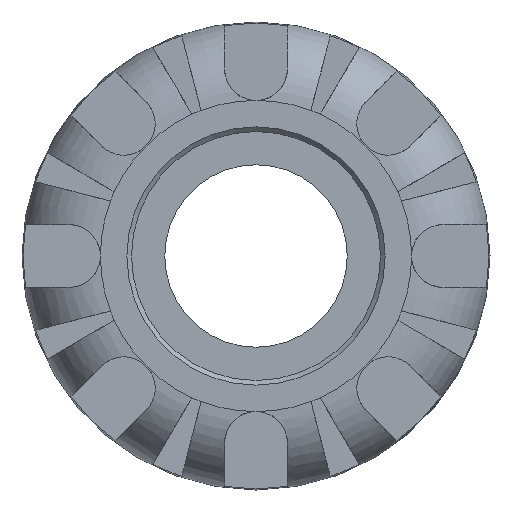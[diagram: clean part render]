
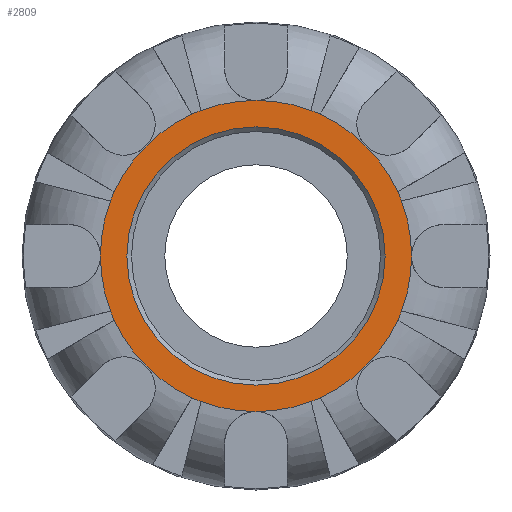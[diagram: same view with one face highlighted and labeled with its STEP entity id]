
A CAD part, left-side view. The second image highlights one B-rep face of the part: STEP entity #2809.
In plain terms, the highlighted planar face has unit normal (-1, 0, 0).
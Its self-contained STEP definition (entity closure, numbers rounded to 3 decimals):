
#25=FACE_BOUND('',#490,.T.);
#114=CIRCLE('',#3048,12.97);
#115=CIRCLE('',#3050,15.625);
#116=CIRCLE('',#3051,15.625);
#117=CIRCLE('',#3052,15.625);
#118=CIRCLE('',#3053,15.625);
#119=CIRCLE('',#3054,15.625);
#120=CIRCLE('',#3055,15.625);
#121=CIRCLE('',#3056,15.625);
#122=CIRCLE('',#3057,15.625);
#123=CIRCLE('',#3058,15.625);
#124=CIRCLE('',#3059,15.625);
#125=CIRCLE('',#3060,15.625);
#126=CIRCLE('',#3061,15.625);
#127=CIRCLE('',#3062,15.625);
#128=CIRCLE('',#3063,15.625);
#129=CIRCLE('',#3064,15.625);
#130=CIRCLE('',#3065,15.625);
#131=CIRCLE('',#3066,15.625);
#132=CIRCLE('',#3067,15.625);
#133=CIRCLE('',#3068,15.625);
#134=CIRCLE('',#3069,15.625);
#135=CIRCLE('',#3070,15.625);
#136=CIRCLE('',#3071,15.625);
#137=CIRCLE('',#3072,15.625);
#138=CIRCLE('',#3073,15.625);
#320=FACE_OUTER_BOUND('',#489,.T.);
#489=EDGE_LOOP('',(#2048,#2049,#2050,#2051,#2052,#2053,#2054,#2055,#2056,
#2057,#2058,#2059,#2060,#2061,#2062,#2063,#2064,#2065,#2066,#2067,#2068,
#2069,#2070,#2071));
#490=EDGE_LOOP('',(#2072));
#1115=VERTEX_POINT('',#5249);
#1116=VERTEX_POINT('',#5252);
#1117=VERTEX_POINT('',#5253);
#1118=VERTEX_POINT('',#5255);
#1119=VERTEX_POINT('',#5257);
#1120=VERTEX_POINT('',#5259);
#1121=VERTEX_POINT('',#5261);
#1122=VERTEX_POINT('',#5263);
#1123=VERTEX_POINT('',#5265);
#1124=VERTEX_POINT('',#5267);
#1125=VERTEX_POINT('',#5269);
#1126=VERTEX_POINT('',#5271);
#1127=VERTEX_POINT('',#5273);
#1128=VERTEX_POINT('',#5275);
#1129=VERTEX_POINT('',#5277);
#1130=VERTEX_POINT('',#5279);
#1131=VERTEX_POINT('',#5281);
#1132=VERTEX_POINT('',#5283);
#1133=VERTEX_POINT('',#5285);
#1134=VERTEX_POINT('',#5287);
#1135=VERTEX_POINT('',#5289);
#1136=VERTEX_POINT('',#5291);
#1137=VERTEX_POINT('',#5293);
#1138=VERTEX_POINT('',#5295);
#1139=VERTEX_POINT('',#5297);
#1449=EDGE_CURVE('',#1115,#1115,#114,.T.);
#1450=EDGE_CURVE('',#1116,#1117,#115,.T.);
#1451=EDGE_CURVE('',#1118,#1116,#116,.T.);
#1452=EDGE_CURVE('',#1119,#1118,#117,.T.);
#1453=EDGE_CURVE('',#1120,#1119,#118,.T.);
#1454=EDGE_CURVE('',#1121,#1120,#119,.T.);
#1455=EDGE_CURVE('',#1122,#1121,#120,.T.);
#1456=EDGE_CURVE('',#1123,#1122,#121,.T.);
#1457=EDGE_CURVE('',#1124,#1123,#122,.T.);
#1458=EDGE_CURVE('',#1125,#1124,#123,.T.);
#1459=EDGE_CURVE('',#1126,#1125,#124,.T.);
#1460=EDGE_CURVE('',#1127,#1126,#125,.T.);
#1461=EDGE_CURVE('',#1128,#1127,#126,.T.);
#1462=EDGE_CURVE('',#1129,#1128,#127,.T.);
#1463=EDGE_CURVE('',#1130,#1129,#128,.T.);
#1464=EDGE_CURVE('',#1131,#1130,#129,.T.);
#1465=EDGE_CURVE('',#1132,#1131,#130,.T.);
#1466=EDGE_CURVE('',#1133,#1132,#131,.T.);
#1467=EDGE_CURVE('',#1134,#1133,#132,.T.);
#1468=EDGE_CURVE('',#1135,#1134,#133,.T.);
#1469=EDGE_CURVE('',#1136,#1135,#134,.T.);
#1470=EDGE_CURVE('',#1137,#1136,#135,.T.);
#1471=EDGE_CURVE('',#1138,#1137,#136,.T.);
#1472=EDGE_CURVE('',#1139,#1138,#137,.T.);
#1473=EDGE_CURVE('',#1117,#1139,#138,.T.);
#2048=ORIENTED_EDGE('',*,*,#1450,.F.);
#2049=ORIENTED_EDGE('',*,*,#1451,.F.);
#2050=ORIENTED_EDGE('',*,*,#1452,.F.);
#2051=ORIENTED_EDGE('',*,*,#1453,.F.);
#2052=ORIENTED_EDGE('',*,*,#1454,.F.);
#2053=ORIENTED_EDGE('',*,*,#1455,.F.);
#2054=ORIENTED_EDGE('',*,*,#1456,.F.);
#2055=ORIENTED_EDGE('',*,*,#1457,.F.);
#2056=ORIENTED_EDGE('',*,*,#1458,.F.);
#2057=ORIENTED_EDGE('',*,*,#1459,.F.);
#2058=ORIENTED_EDGE('',*,*,#1460,.F.);
#2059=ORIENTED_EDGE('',*,*,#1461,.F.);
#2060=ORIENTED_EDGE('',*,*,#1462,.F.);
#2061=ORIENTED_EDGE('',*,*,#1463,.F.);
#2062=ORIENTED_EDGE('',*,*,#1464,.F.);
#2063=ORIENTED_EDGE('',*,*,#1465,.F.);
#2064=ORIENTED_EDGE('',*,*,#1466,.F.);
#2065=ORIENTED_EDGE('',*,*,#1467,.F.);
#2066=ORIENTED_EDGE('',*,*,#1468,.F.);
#2067=ORIENTED_EDGE('',*,*,#1469,.F.);
#2068=ORIENTED_EDGE('',*,*,#1470,.F.);
#2069=ORIENTED_EDGE('',*,*,#1471,.F.);
#2070=ORIENTED_EDGE('',*,*,#1472,.F.);
#2071=ORIENTED_EDGE('',*,*,#1473,.F.);
#2072=ORIENTED_EDGE('',*,*,#1449,.F.);
#2507=PLANE('',#3049);
#2809=ADVANCED_FACE('',(#320,#25),#2507,.T.);
#3048=AXIS2_PLACEMENT_3D('',#5250,#3591,#3592);
#3049=AXIS2_PLACEMENT_3D('',#5251,#3593,#3594);
#3050=AXIS2_PLACEMENT_3D('',#5254,#3595,#3596);
#3051=AXIS2_PLACEMENT_3D('',#5256,#3597,#3598);
#3052=AXIS2_PLACEMENT_3D('',#5258,#3599,#3600);
#3053=AXIS2_PLACEMENT_3D('',#5260,#3601,#3602);
#3054=AXIS2_PLACEMENT_3D('',#5262,#3603,#3604);
#3055=AXIS2_PLACEMENT_3D('',#5264,#3605,#3606);
#3056=AXIS2_PLACEMENT_3D('',#5266,#3607,#3608);
#3057=AXIS2_PLACEMENT_3D('',#5268,#3609,#3610);
#3058=AXIS2_PLACEMENT_3D('',#5270,#3611,#3612);
#3059=AXIS2_PLACEMENT_3D('',#5272,#3613,#3614);
#3060=AXIS2_PLACEMENT_3D('',#5274,#3615,#3616);
#3061=AXIS2_PLACEMENT_3D('',#5276,#3617,#3618);
#3062=AXIS2_PLACEMENT_3D('',#5278,#3619,#3620);
#3063=AXIS2_PLACEMENT_3D('',#5280,#3621,#3622);
#3064=AXIS2_PLACEMENT_3D('',#5282,#3623,#3624);
#3065=AXIS2_PLACEMENT_3D('',#5284,#3625,#3626);
#3066=AXIS2_PLACEMENT_3D('',#5286,#3627,#3628);
#3067=AXIS2_PLACEMENT_3D('',#5288,#3629,#3630);
#3068=AXIS2_PLACEMENT_3D('',#5290,#3631,#3632);
#3069=AXIS2_PLACEMENT_3D('',#5292,#3633,#3634);
#3070=AXIS2_PLACEMENT_3D('',#5294,#3635,#3636);
#3071=AXIS2_PLACEMENT_3D('',#5296,#3637,#3638);
#3072=AXIS2_PLACEMENT_3D('',#5298,#3639,#3640);
#3073=AXIS2_PLACEMENT_3D('',#5299,#3641,#3642);
#3591=DIRECTION('center_axis',(-1.,0.,0.));
#3592=DIRECTION('ref_axis',(0.,-1.,0.));
#3593=DIRECTION('center_axis',(-1.,0.,0.));
#3594=DIRECTION('ref_axis',(0.,0.,1.));
#3595=DIRECTION('center_axis',(1.,0.,0.));
#3596=DIRECTION('ref_axis',(0.,0.,-1.));
#3597=DIRECTION('center_axis',(1.,0.,0.));
#3598=DIRECTION('ref_axis',(0.,0.,-1.));
#3599=DIRECTION('center_axis',(1.,0.,0.));
#3600=DIRECTION('ref_axis',(0.,0.,-1.));
#3601=DIRECTION('center_axis',(1.,0.,0.));
#3602=DIRECTION('ref_axis',(0.,0.,-1.));
#3603=DIRECTION('center_axis',(1.,0.,0.));
#3604=DIRECTION('ref_axis',(0.,0.,-1.));
#3605=DIRECTION('center_axis',(1.,0.,0.));
#3606=DIRECTION('ref_axis',(0.,0.,-1.));
#3607=DIRECTION('center_axis',(1.,0.,0.));
#3608=DIRECTION('ref_axis',(0.,0.,-1.));
#3609=DIRECTION('center_axis',(1.,0.,0.));
#3610=DIRECTION('ref_axis',(0.,0.,-1.));
#3611=DIRECTION('center_axis',(1.,0.,0.));
#3612=DIRECTION('ref_axis',(0.,0.,-1.));
#3613=DIRECTION('center_axis',(1.,0.,0.));
#3614=DIRECTION('ref_axis',(0.,0.,-1.));
#3615=DIRECTION('center_axis',(1.,0.,0.));
#3616=DIRECTION('ref_axis',(0.,0.,-1.));
#3617=DIRECTION('center_axis',(1.,0.,0.));
#3618=DIRECTION('ref_axis',(0.,0.,-1.));
#3619=DIRECTION('center_axis',(1.,0.,0.));
#3620=DIRECTION('ref_axis',(0.,0.,-1.));
#3621=DIRECTION('center_axis',(1.,0.,0.));
#3622=DIRECTION('ref_axis',(0.,0.,-1.));
#3623=DIRECTION('center_axis',(1.,0.,0.));
#3624=DIRECTION('ref_axis',(0.,0.,-1.));
#3625=DIRECTION('center_axis',(1.,0.,0.));
#3626=DIRECTION('ref_axis',(0.,0.,-1.));
#3627=DIRECTION('center_axis',(1.,0.,0.));
#3628=DIRECTION('ref_axis',(0.,0.,-1.));
#3629=DIRECTION('center_axis',(1.,0.,0.));
#3630=DIRECTION('ref_axis',(0.,0.,-1.));
#3631=DIRECTION('center_axis',(1.,0.,0.));
#3632=DIRECTION('ref_axis',(0.,0.,-1.));
#3633=DIRECTION('center_axis',(1.,0.,0.));
#3634=DIRECTION('ref_axis',(0.,0.,-1.));
#3635=DIRECTION('center_axis',(1.,0.,0.));
#3636=DIRECTION('ref_axis',(0.,0.,-1.));
#3637=DIRECTION('center_axis',(1.,0.,0.));
#3638=DIRECTION('ref_axis',(0.,0.,-1.));
#3639=DIRECTION('center_axis',(1.,0.,0.));
#3640=DIRECTION('ref_axis',(0.,0.,-1.));
#3641=DIRECTION('center_axis',(1.,0.,0.));
#3642=DIRECTION('ref_axis',(0.,0.,-1.));
#5249=CARTESIAN_POINT('',(-49.,12.97,0.));
#5250=CARTESIAN_POINT('Origin',(-49.,0.,0.));
#5251=CARTESIAN_POINT('Origin',(-49.,15.625,0.));
#5252=CARTESIAN_POINT('',(-49.,15.625,0.));
#5253=CARTESIAN_POINT('',(-49.,14.62,5.514));
#5254=CARTESIAN_POINT('Origin',(-49.,0.,0.));
#5255=CARTESIAN_POINT('',(-49.,14.62,-5.514));
#5256=CARTESIAN_POINT('Origin',(-49.,0.,0.));
#5257=CARTESIAN_POINT('',(-49.,14.237,-6.438));
#5258=CARTESIAN_POINT('Origin',(-49.,0.,0.));
#5259=CARTESIAN_POINT('',(-49.,11.049,-11.049));
#5260=CARTESIAN_POINT('Origin',(-49.,0.,0.));
#5261=CARTESIAN_POINT('',(-49.,6.438,-14.237));
#5262=CARTESIAN_POINT('Origin',(-49.,0.,0.));
#5263=CARTESIAN_POINT('',(-49.,5.514,-14.62));
#5264=CARTESIAN_POINT('Origin',(-49.,0.,0.));
#5265=CARTESIAN_POINT('',(-49.,0.,-15.625));
#5266=CARTESIAN_POINT('Origin',(-49.,0.,0.));
#5267=CARTESIAN_POINT('',(-49.,-5.514,-14.62));
#5268=CARTESIAN_POINT('Origin',(-49.,0.,0.));
#5269=CARTESIAN_POINT('',(-49.,-6.438,-14.237));
#5270=CARTESIAN_POINT('Origin',(-49.,0.,0.));
#5271=CARTESIAN_POINT('',(-49.,-11.049,-11.049));
#5272=CARTESIAN_POINT('Origin',(-49.,0.,0.));
#5273=CARTESIAN_POINT('',(-49.,-14.237,-6.438));
#5274=CARTESIAN_POINT('Origin',(-49.,0.,0.));
#5275=CARTESIAN_POINT('',(-49.,-14.62,-5.514));
#5276=CARTESIAN_POINT('Origin',(-49.,0.,0.));
#5277=CARTESIAN_POINT('',(-49.,-15.625,0.));
#5278=CARTESIAN_POINT('Origin',(-49.,0.,0.));
#5279=CARTESIAN_POINT('',(-49.,-14.62,5.514));
#5280=CARTESIAN_POINT('Origin',(-49.,0.,0.));
#5281=CARTESIAN_POINT('',(-49.,-14.237,6.438));
#5282=CARTESIAN_POINT('Origin',(-49.,0.,0.));
#5283=CARTESIAN_POINT('',(-49.,-11.049,11.049));
#5284=CARTESIAN_POINT('Origin',(-49.,0.,0.));
#5285=CARTESIAN_POINT('',(-49.,-6.438,14.237));
#5286=CARTESIAN_POINT('Origin',(-49.,0.,0.));
#5287=CARTESIAN_POINT('',(-49.,-5.514,14.62));
#5288=CARTESIAN_POINT('Origin',(-49.,0.,0.));
#5289=CARTESIAN_POINT('',(-49.,0.,15.625));
#5290=CARTESIAN_POINT('Origin',(-49.,0.,0.));
#5291=CARTESIAN_POINT('',(-49.,5.514,14.62));
#5292=CARTESIAN_POINT('Origin',(-49.,0.,0.));
#5293=CARTESIAN_POINT('',(-49.,6.438,14.237));
#5294=CARTESIAN_POINT('Origin',(-49.,0.,0.));
#5295=CARTESIAN_POINT('',(-49.,11.049,11.049));
#5296=CARTESIAN_POINT('Origin',(-49.,0.,0.));
#5297=CARTESIAN_POINT('',(-49.,14.237,6.438));
#5298=CARTESIAN_POINT('Origin',(-49.,0.,0.));
#5299=CARTESIAN_POINT('Origin',(-49.,0.,0.));
